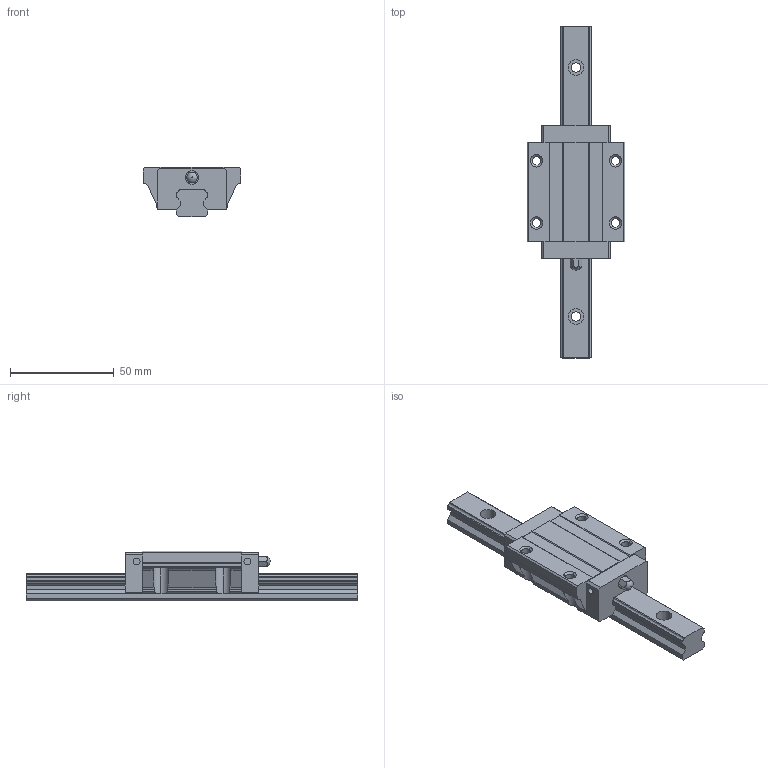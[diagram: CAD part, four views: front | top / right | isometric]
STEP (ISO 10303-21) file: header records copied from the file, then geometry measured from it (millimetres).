
FILE_DESCRIPTION((''),'1');
FILE_NAME(' ',' ',(''),(''),'ACIS Interop R16','Kubotek KeyCreator V6.5.2 (0407)',' ');
FILE_SCHEMA(('CONFIG_CONTROL_DESIGN'));
Length unit declared in the file: millimetre
Products named in the file (3): 1; 2; 3
Bounding box: 47 x 160 x 24 mm (x, y, z)
Volume: 68552.5 mm3; surface area: 21682 mm2
Topology: 3 solids, 3 shells, 195 faces, 536 edges, 358 vertices
Faces by surface type: plane 107, cylinder 76, cone 10, sphere 2
Entity records: 6460 total; most frequent: CARTESIAN_POINT 1146, DIRECTION 1120, ORIENTED_EDGE 1072, EDGE_CURVE 536, AXIS2_PLACEMENT_3D 394, VERTEX_POINT 358, LINE 332, VECTOR 332
